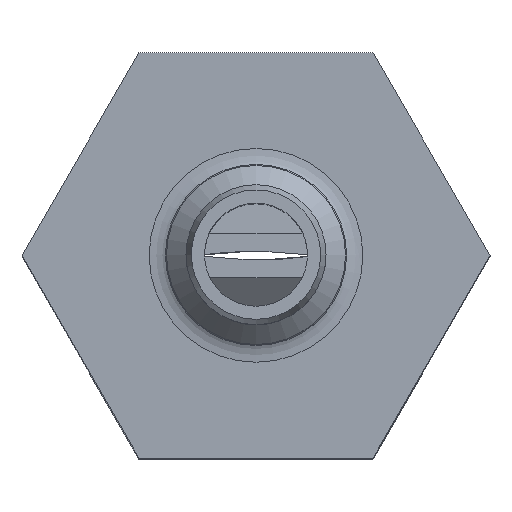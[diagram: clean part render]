
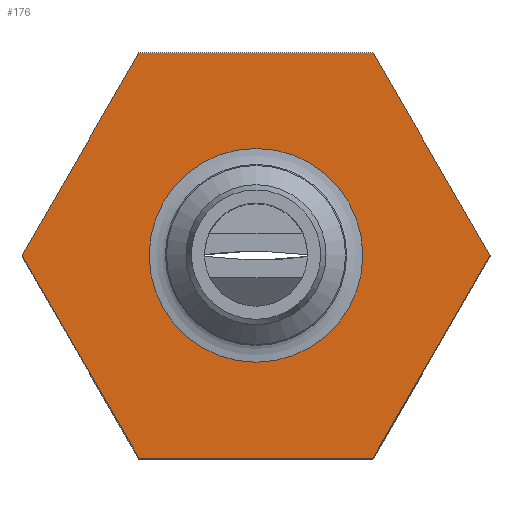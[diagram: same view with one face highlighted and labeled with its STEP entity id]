
A CAD part, top view. The second image highlights one B-rep face of the part: STEP entity #176.
In plain terms, the highlighted planar face has unit normal (0, 0, 1).
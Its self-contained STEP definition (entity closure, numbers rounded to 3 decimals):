
#6 = LINE ( 'NONE', #1094, #2353 ) ;
#36 = LINE ( 'NONE', #1152, #2447 ) ;
#168 = LINE ( 'NONE', #1321, #1008 ) ;
#176 = ADVANCED_FACE ( 'NONE', ( #1809, #1061 ), #1341, .T. ) ;
#187 = CARTESIAN_POINT ( 'NONE',  ( 1.588, -2.75, 8.3 ) ) ;
#220 = CARTESIAN_POINT ( 'NONE',  ( 3.175, 0., 8.3 ) ) ;
#227 = EDGE_LOOP ( 'NONE', ( #2046, #964, #2082, #1641, #1695, #1000 ) ) ;
#253 = VERTEX_POINT ( 'NONE', #2354 ) ;
#261 = EDGE_CURVE ( 'NONE', #1175, #1242, #1127, .T. ) ;
#274 = DIRECTION ( 'NONE',  ( 0.5, -0.866, 0. ) ) ;
#419 = DIRECTION ( 'NONE',  ( 1., 0., 0. ) ) ;
#430 = CARTESIAN_POINT ( 'NONE',  ( 0., 0., 8.3 ) ) ;
#595 = CARTESIAN_POINT ( 'NONE',  ( 1.588, 2.75, 8.3 ) ) ;
#616 = DIRECTION ( 'NONE',  ( 1., 0., 0. ) ) ;
#756 = EDGE_LOOP ( 'NONE', ( #2205 ) ) ;
#804 = VECTOR ( 'NONE', #2572, 1000. ) ;
#964 = ORIENTED_EDGE ( 'NONE', *, *, #261, .T. ) ;
#1000 = ORIENTED_EDGE ( 'NONE', *, *, #1764, .T. ) ;
#1002 = LINE ( 'NONE', #2492, #1062 ) ;
#1008 = VECTOR ( 'NONE', #1101, 1000. ) ;
#1011 = LINE ( 'NONE', #1043, #2586 ) ;
#1043 = CARTESIAN_POINT ( 'NONE',  ( -1.588, -2.75, 8.3 ) ) ;
#1044 = AXIS2_PLACEMENT_3D ( 'NONE', #1323, #1749, #2546 ) ;
#1053 = EDGE_CURVE ( 'NONE', #2609, #1175, #1002, .T. ) ;
#1061 = FACE_OUTER_BOUND ( 'NONE', #227, .T. ) ;
#1062 = VECTOR ( 'NONE', #2075, 1000. ) ;
#1094 = CARTESIAN_POINT ( 'NONE',  ( -3.175, 0., 8.3 ) ) ;
#1101 = DIRECTION ( 'NONE',  ( -1., 0., 0. ) ) ;
#1127 = LINE ( 'NONE', #2142, #804 ) ;
#1152 = CARTESIAN_POINT ( 'NONE',  ( -1.588, 2.75, 8.3 ) ) ;
#1175 = VERTEX_POINT ( 'NONE', #220 ) ;
#1242 = VERTEX_POINT ( 'NONE', #595 ) ;
#1321 = CARTESIAN_POINT ( 'NONE',  ( 1.588, 2.75, 8.3 ) ) ;
#1323 = CARTESIAN_POINT ( 'NONE',  ( 3.175, 0., 8.3 ) ) ;
#1341 = PLANE ( 'NONE',  #1044 ) ;
#1470 = DIRECTION ( 'NONE',  ( 0., 0., -1. ) ) ;
#1623 = EDGE_CURVE ( 'NONE', #2548, #2548, #1870, .T. ) ;
#1641 = ORIENTED_EDGE ( 'NONE', *, *, #2376, .T. ) ;
#1695 = ORIENTED_EDGE ( 'NONE', *, *, #2152, .T. ) ;
#1703 = CARTESIAN_POINT ( 'NONE',  ( 1.45, 0., 8.3 ) ) ;
#1749 = DIRECTION ( 'NONE',  ( 0., 0., 1. ) ) ;
#1764 = EDGE_CURVE ( 'NONE', #2425, #2609, #1011, .T. ) ;
#1809 = FACE_BOUND ( 'NONE', #756, .T. ) ;
#1870 = CIRCLE ( 'NONE', #2191, 1.45 ) ;
#2046 = ORIENTED_EDGE ( 'NONE', *, *, #1053, .T. ) ;
#2075 = DIRECTION ( 'NONE',  ( 0.5, 0.866, 0. ) ) ;
#2082 = ORIENTED_EDGE ( 'NONE', *, *, #2100, .T. ) ;
#2100 = EDGE_CURVE ( 'NONE', #1242, #2135, #168, .T. ) ;
#2135 = VERTEX_POINT ( 'NONE', #2330 ) ;
#2142 = CARTESIAN_POINT ( 'NONE',  ( 3.175, 0., 8.3 ) ) ;
#2151 = DIRECTION ( 'NONE',  ( -0.5, -0.866, 0. ) ) ;
#2152 = EDGE_CURVE ( 'NONE', #253, #2425, #6, .T. ) ;
#2191 = AXIS2_PLACEMENT_3D ( 'NONE', #430, #1470, #419 ) ;
#2205 = ORIENTED_EDGE ( 'NONE', *, *, #1623, .T. ) ;
#2330 = CARTESIAN_POINT ( 'NONE',  ( -1.588, 2.75, 8.3 ) ) ;
#2353 = VECTOR ( 'NONE', #274, 1000. ) ;
#2354 = CARTESIAN_POINT ( 'NONE',  ( -3.175, 0., 8.3 ) ) ;
#2376 = EDGE_CURVE ( 'NONE', #2135, #253, #36, .T. ) ;
#2425 = VERTEX_POINT ( 'NONE', #2640 ) ;
#2447 = VECTOR ( 'NONE', #2151, 1000. ) ;
#2492 = CARTESIAN_POINT ( 'NONE',  ( 1.588, -2.75, 8.3 ) ) ;
#2546 = DIRECTION ( 'NONE',  ( 1., 0., 0. ) ) ;
#2548 = VERTEX_POINT ( 'NONE', #1703 ) ;
#2572 = DIRECTION ( 'NONE',  ( -0.5, 0.866, 0. ) ) ;
#2586 = VECTOR ( 'NONE', #616, 1000. ) ;
#2609 = VERTEX_POINT ( 'NONE', #187 ) ;
#2640 = CARTESIAN_POINT ( 'NONE',  ( -1.588, -2.75, 8.3 ) ) ;
